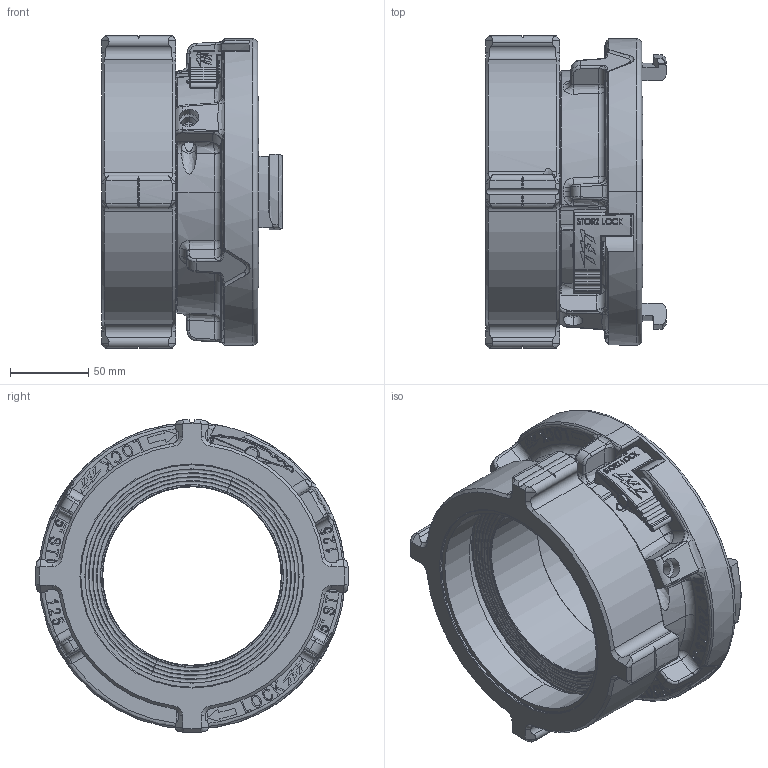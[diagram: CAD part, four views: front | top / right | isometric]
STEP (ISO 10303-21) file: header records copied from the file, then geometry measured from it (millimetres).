
FILE_DESCRIPTION (( 'STEP AP203' ), '1' );
FILE_NAME ('AA1ST-NT.step', '2014-05-13T18:31:20', ( 'user' ), ( '' ), 'SwSTEP 2.0', 'SolidWorks 2012', '' );
FILE_SCHEMA (( 'CONFIG_CONTROL_DESIGN' ));
Length unit declared in the file: inch
Products named in the file (1): AA1ST-NT
Bounding box: 115.72 x 200.03 x 199.98 mm (x, y, z)
Surface area: 194788.4 mm2 (no closed solid volume)
Topology: 0 solids, 9 shells, 1042 faces, 3374 edges, 2249 vertices
Faces by surface type: plane 332, bspline 315, cylinder 185, cone 108, torus 88, sphere 14
Entity records: 54157 total; most frequent: CARTESIAN_POINT 28507, ORIENTED_EDGE 5793, DIRECTION 4209, EDGE_CURVE 3368, VERTEX_POINT 2248, AXIS2_PLACEMENT_3D 1438, VECTOR 1333, LINE 1333
